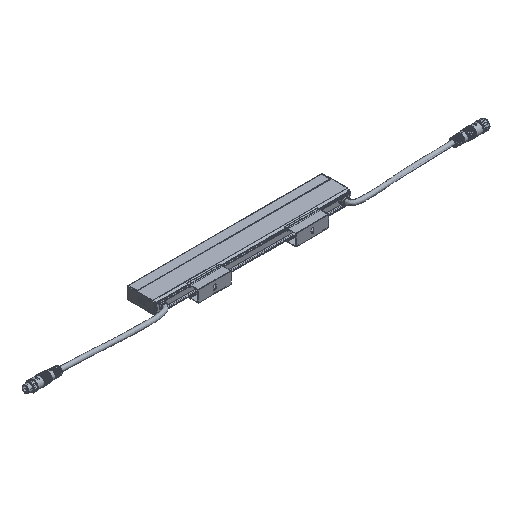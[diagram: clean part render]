
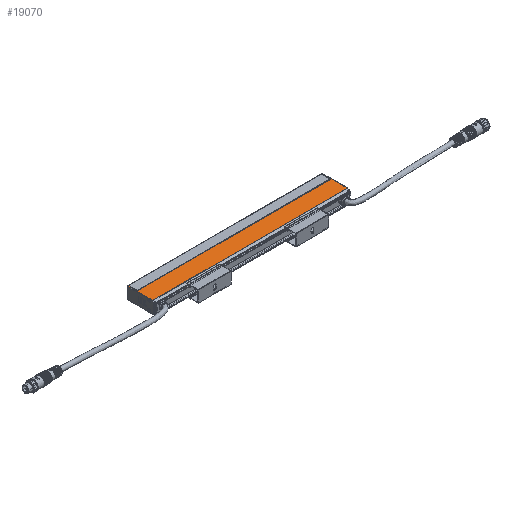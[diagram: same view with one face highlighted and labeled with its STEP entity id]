
A CAD part, isometric view. The second image highlights one B-rep face of the part: STEP entity #19070.
In plain terms, the highlighted planar face has unit normal (0, 0, 1).
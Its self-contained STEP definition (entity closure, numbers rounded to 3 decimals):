
#141 = EDGE_CURVE ( 'NONE', #20181, #45441, #12644, .T. ) ;
#878 = VERTEX_POINT ( 'NONE', #13296 ) ;
#1088 = LINE ( 'NONE', #41170, #51557 ) ;
#2093 = VECTOR ( 'NONE', #34444, 1000. ) ;
#2336 = EDGE_CURVE ( 'NONE', #3493, #11693, #26363, .T. ) ;
#2339 = ORIENTED_EDGE ( 'NONE', *, *, #28464, .T. ) ;
#2386 = VERTEX_POINT ( 'NONE', #40232 ) ;
#2463 = CARTESIAN_POINT ( 'NONE',  ( 149.5, 59.992, 9.15 ) ) ;
#2502 = CARTESIAN_POINT ( 'NONE',  ( 148., 0., 9.15 ) ) ;
#2931 = EDGE_CURVE ( 'NONE', #878, #2386, #31929, .T. ) ;
#3222 = CARTESIAN_POINT ( 'NONE',  ( -149.5, 0., 9.15 ) ) ;
#3493 = VERTEX_POINT ( 'NONE', #43114 ) ;
#3878 = EDGE_LOOP ( 'NONE', ( #29978, #42696, #2339, #25496, #23708, #15566, #51315, #15788, #57390, #39763 ) ) ;
#7136 = VECTOR ( 'NONE', #31102, 1000. ) ;
#7410 = EDGE_CURVE ( 'NONE', #42269, #19029, #1088, .T. ) ;
#8437 = DIRECTION ( 'NONE',  ( 0., -1., 0. ) ) ;
#9698 = LINE ( 'NONE', #22917, #21387 ) ;
#10701 = DIRECTION ( 'NONE',  ( -1., 0., 0. ) ) ;
#11052 = LINE ( 'NONE', #29871, #50653 ) ;
#11693 = VERTEX_POINT ( 'NONE', #43814 ) ;
#12644 = LINE ( 'NONE', #3222, #2093 ) ;
#13296 = CARTESIAN_POINT ( 'NONE',  ( -148., 59.492, 9.15 ) ) ;
#14929 = VECTOR ( 'NONE', #8437, 1000. ) ;
#15566 = ORIENTED_EDGE ( 'NONE', *, *, #23352, .T. ) ;
#15788 = ORIENTED_EDGE ( 'NONE', *, *, #2336, .T. ) ;
#17340 = CARTESIAN_POINT ( 'NONE',  ( 149.5, 50.842, 9.15 ) ) ;
#17550 = CARTESIAN_POINT ( 'NONE',  ( 148., 59.492, 9.15 ) ) ;
#18507 = CARTESIAN_POINT ( 'NONE',  ( -148., 45.5, 9.15 ) ) ;
#18683 = CARTESIAN_POINT ( 'NONE',  ( -149.5, 0., 9.15 ) ) ;
#19029 = VERTEX_POINT ( 'NONE', #47803 ) ;
#19070 = ADVANCED_FACE ( 'NONE', ( #56300 ), #38391, .F. ) ;
#20181 = VERTEX_POINT ( 'NONE', #21178 ) ;
#20472 = DIRECTION ( 'NONE',  ( 0., -1., 0. ) ) ;
#21178 = CARTESIAN_POINT ( 'NONE',  ( -149.5, 50.842, 9.15 ) ) ;
#21387 = VECTOR ( 'NONE', #32375, 1000. ) ;
#21787 = CARTESIAN_POINT ( 'NONE',  ( 149.5, 50.842, 9.15 ) ) ;
#22054 = LINE ( 'NONE', #21787, #32380 ) ;
#22917 = CARTESIAN_POINT ( 'NONE',  ( 148., 45.5, 9.15 ) ) ;
#23352 = EDGE_CURVE ( 'NONE', #56864, #46774, #22054, .T. ) ;
#23708 = ORIENTED_EDGE ( 'NONE', *, *, #41796, .F. ) ;
#25327 = VECTOR ( 'NONE', #53803, 1000. ) ;
#25496 = ORIENTED_EDGE ( 'NONE', *, *, #141, .T. ) ;
#26363 = LINE ( 'NONE', #17550, #7136 ) ;
#27049 = CARTESIAN_POINT ( 'NONE',  ( 148., 20.786, 9.15 ) ) ;
#27462 = LINE ( 'NONE', #18683, #14929 ) ;
#28464 = EDGE_CURVE ( 'NONE', #2386, #20181, #27462, .T. ) ;
#29871 = CARTESIAN_POINT ( 'NONE',  ( -148., 45.5, 9.15 ) ) ;
#29978 = ORIENTED_EDGE ( 'NONE', *, *, #51756, .F. ) ;
#30316 = EDGE_CURVE ( 'NONE', #46774, #3493, #47197, .T. ) ;
#31102 = DIRECTION ( 'NONE',  ( -1., 0., 0. ) ) ;
#31929 = LINE ( 'NONE', #50955, #42603 ) ;
#32375 = DIRECTION ( 'NONE',  ( 0., -1., 0. ) ) ;
#32380 = VECTOR ( 'NONE', #57621, 1000. ) ;
#33500 = CARTESIAN_POINT ( 'NONE',  ( 149.5, 20.786, 9.15 ) ) ;
#34260 = DIRECTION ( 'NONE',  ( 0., 1., 0. ) ) ;
#34444 = DIRECTION ( 'NONE',  ( 0., -1., 0. ) ) ;
#37291 = DIRECTION ( 'NONE',  ( 1., 0., 0. ) ) ;
#38391 = PLANE ( 'NONE',  #55067 ) ;
#39278 = DIRECTION ( 'NONE',  ( 0., 1., 0. ) ) ;
#39763 = ORIENTED_EDGE ( 'NONE', *, *, #7410, .F. ) ;
#40232 = CARTESIAN_POINT ( 'NONE',  ( -149.5, 59.492, 9.15 ) ) ;
#40813 = VECTOR ( 'NONE', #34260, 1000. ) ;
#41170 = CARTESIAN_POINT ( 'NONE',  ( -148., 45.5, 9.15 ) ) ;
#41796 = EDGE_CURVE ( 'NONE', #56864, #45441, #57369, .T. ) ;
#42269 = VERTEX_POINT ( 'NONE', #18507 ) ;
#42603 = VECTOR ( 'NONE', #10701, 1000. ) ;
#42696 = ORIENTED_EDGE ( 'NONE', *, *, #2931, .T. ) ;
#43114 = CARTESIAN_POINT ( 'NONE',  ( 149.5, 59.492, 9.15 ) ) ;
#43814 = CARTESIAN_POINT ( 'NONE',  ( 148., 59.492, 9.15 ) ) ;
#45441 = VERTEX_POINT ( 'NONE', #57163 ) ;
#46774 = VERTEX_POINT ( 'NONE', #17340 ) ;
#47197 = LINE ( 'NONE', #2463, #40813 ) ;
#47803 = CARTESIAN_POINT ( 'NONE',  ( 148., 45.5, 9.15 ) ) ;
#50212 = EDGE_CURVE ( 'NONE', #11693, #19029, #9698, .T. ) ;
#50653 = VECTOR ( 'NONE', #20472, 1000. ) ;
#50955 = CARTESIAN_POINT ( 'NONE',  ( 148., 59.492, 9.15 ) ) ;
#51315 = ORIENTED_EDGE ( 'NONE', *, *, #30316, .T. ) ;
#51557 = VECTOR ( 'NONE', #37291, 1000. ) ;
#51756 = EDGE_CURVE ( 'NONE', #878, #42269, #11052, .T. ) ;
#53803 = DIRECTION ( 'NONE',  ( -1., 0., 0. ) ) ;
#55067 = AXIS2_PLACEMENT_3D ( 'NONE', #2502, #57178, #39278 ) ;
#56300 = FACE_OUTER_BOUND ( 'NONE', #3878, .T. ) ;
#56864 = VERTEX_POINT ( 'NONE', #33500 ) ;
#57163 = CARTESIAN_POINT ( 'NONE',  ( -149.5, 20.786, 9.15 ) ) ;
#57178 = DIRECTION ( 'NONE',  ( 0., 0., -1. ) ) ;
#57369 = LINE ( 'NONE', #27049, #25327 ) ;
#57390 = ORIENTED_EDGE ( 'NONE', *, *, #50212, .T. ) ;
#57621 = DIRECTION ( 'NONE',  ( 0., 1., 0. ) ) ;
